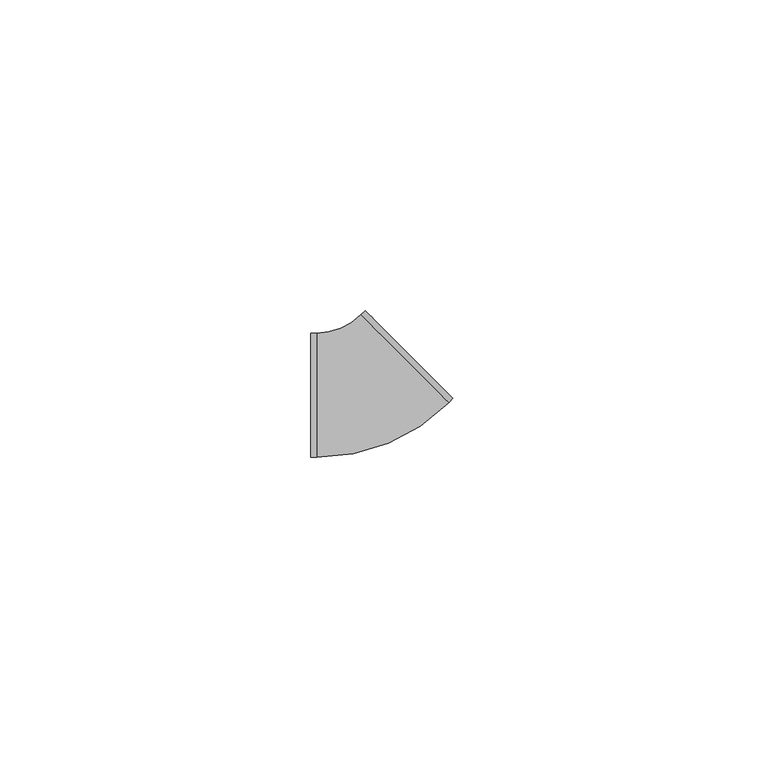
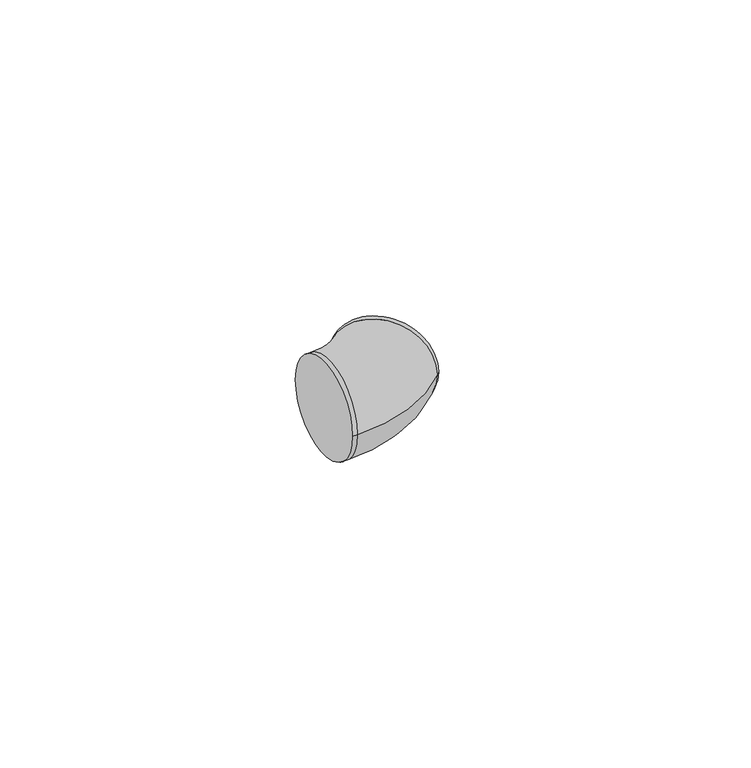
"""IFC4 building model written with IfcOpenShell, lengths in millimetres: cable carrier fitting geometry, ADSK_Поворот_Минимальный размер : Неспецифицируемый."""

from ifc_helpers import new_model, si_unit, point, frame, origin, place, context, project, spatial, circle_curve, ellipse_curve, trimmed, source, transform, mapped, element, save
from ifc_brep_helpers import plane_surface, cylinder_surface, revolved_surface, advanced_brep


def cable_carrier_fitting_546e5f75(model_context):
    return source(origin(), model_context, "Body", "AdvancedBrep", [
        advanced_brep(
        [(-9.2846804, -10.0, 0.0), (-9.2846804, 10.0, 0.0), (-8.2846804, -10.0, 0.0), (-8.2846804, 10.0, 0.0), (-1.2133657, 12.9291792, 0.0), (12.9292639, -1.2124625, 0.0), (13.636346, -0.5053311, 0.0), (-0.5062836, 13.6363106, 0.0)],
        [
            (0, 1, circle_curve(frame((-9.2846804, 0.0, 0.0), z_axis=(-1.0, -4.92260399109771e-12, 0.0), x_axis=(-4.92260399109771e-12, 1.0, 0.0)), 10.0)),
            (1, 0, circle_curve(frame((-9.2846804, 0.0, 0.0), z_axis=(-1.0, -4.92260399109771e-12, 0.0), x_axis=(-4.92260399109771e-12, 1.0, 0.0)), 10.0)),
            (0, 2),
            (2, 3, circle_curve(frame((-8.2846804, 0.0, 0.0), z_axis=(-1.0, -4.92260399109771e-12, 0.0), x_axis=(-4.92260399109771e-12, 1.0, 0.0)), 10.0)),
            (3, 1),
            (3, 2, circle_curve(frame((-8.2846804, 0.0, 0.0), z_axis=(-1.0, -4.92260399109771e-12, 0.0), x_axis=(-4.92260399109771e-12, 1.0, 0.0)), 10.0)),
            (4, 3, circle_curve(frame((-8.2846804, 20.0, 0.0), z_axis=(0.0, 0.0, -1.0), x_axis=(0.0, -1.0, 0.0)), 10.0)),
            (2, 5, circle_curve(frame((-8.2846804, 20.0, 0.0), z_axis=(0.0, 0.0, 1.0), x_axis=(0.0, -1.0, 0.0)), 30.0)),
            (5, 4, circle_curve(frame((5.8579491, 5.8583583, 0.0), z_axis=(-0.7070820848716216, -0.7071314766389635, 0.0), x_axis=(-0.7071314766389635, 0.7070820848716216, 0.0)), 10.0)),
            (4, 5, circle_curve(frame((5.8579491, 5.8583583, 0.0), z_axis=(-0.7070820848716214, -0.7071314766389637, 0.0), x_axis=(-0.7071314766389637, 0.7070820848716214, 0.0)), 10.0)),
            (6, 7, circle_curve(frame((6.5650312, 6.5654898, 0.0), z_axis=(0.7070820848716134, 0.7071314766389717, 0.0), x_axis=(-0.7071314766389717, 0.7070820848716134, 0.0)), 10.0)),
            (7, 6, circle_curve(frame((6.5650312, 6.5654898, 0.0), z_axis=(0.7070820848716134, 0.7071314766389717, 0.0), x_axis=(-0.7071314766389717, 0.7070820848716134, 0.0)), 10.0)),
            (5, 6),
            (7, 4),
        ],
        [
            plane_surface(frame((-9.2846804, 0.0, 0.0), z_axis=(-1.0, -4.92260399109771e-12, 0.0), x_axis=(0.0, 0.0, 1.0))),
            cylinder_surface(frame((-9.2846804, 0.0, 0.0), z_axis=(-1.0, -4.92260399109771e-12, 0.0), x_axis=(-4.92260399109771e-12, 1.0, 0.0)), 10.0),
            revolved_surface(trimmed(ellipse_curve(frame((-8.2846804, 0.0, 0.0), z_axis=(-1.0, 0.0, 0.0), x_axis=(0.0, 1.0, 0.0)), 10.0, 10.0), [point((-8.2846804, -10.0, 0.0))], [point((-8.2846804, 10.0, 0.0))], True, "CARTESIAN"), (-8.2846804, 20.0, 0.0), (0.0, 0.0, 1.0)),
            revolved_surface(trimmed(ellipse_curve(frame((-8.2846804, 0.0, 0.0), z_axis=(-1.0, 0.0, 0.0), x_axis=(0.0, 1.0, 0.0)), 10.0, 10.0), [point((-8.2846804, 10.0, 0.0))], [point((-8.2846804, -10.0, 0.0))], True, "CARTESIAN"), (-8.2846804, 20.0, 0.0), (0.0, 0.0, 1.0)),
            plane_surface(frame((6.5650312, 6.5654898, 0.0), z_axis=(0.7070820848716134, 0.7071314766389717, 0.0), x_axis=(0.0, 0.0, 1.0))),
            cylinder_surface(frame((5.8579491, 5.8583583, 0.0), z_axis=(-0.7070820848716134, -0.7071314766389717, 0.0), x_axis=(-0.7071314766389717, 0.7070820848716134, 0.0)), 10.0),
        ],
        [
            (0, [[1, 2]]),
            (1, [[-1, 3, 4, 5]]),
            (1, [[-2, -5, 6, -3]]),
            (2, [[7, -4, 8, 9]]),
            (3, [[-8, -6, -7, 10]]),
            (4, [[11, 12]]),
            (5, [[-9, 13, -12, 14]]),
            (5, [[-10, -14, -11, -13]]),
        ],
    ),
    ])


if __name__ == "__main__":
    model = new_model("IFC4")
    model_context = context("Model", 3, world=origin())
    ifc_project = project(units=[si_unit("LENGTHUNIT", "METRE", prefix="MILLI")], contexts=[model_context])
    site = spatial("IfcSite", under=ifc_project)
    building = spatial("IfcBuilding", under=site)
    placement = place(None, origin())
    cable_carrier_fitting_shape = cable_carrier_fitting_546e5f75(model_context)
    element("IfcCableCarrierFitting", 1, ObjectType="ADSK_Поворот_Минимальный размер : Неспецифицируемый", at=placement, inside=building, context=model_context, shape_type="MappedRepresentation", body=[
        mapped(cable_carrier_fitting_shape, transform((0.0, 0.0, 0.0), x_axis=(1.0, 0.0, 0.0), y_axis=(0.0, 1.0, 0.0), z_axis=(0.0, 0.0, 1.0))),
    ])
    save(model, "model.ifc")
